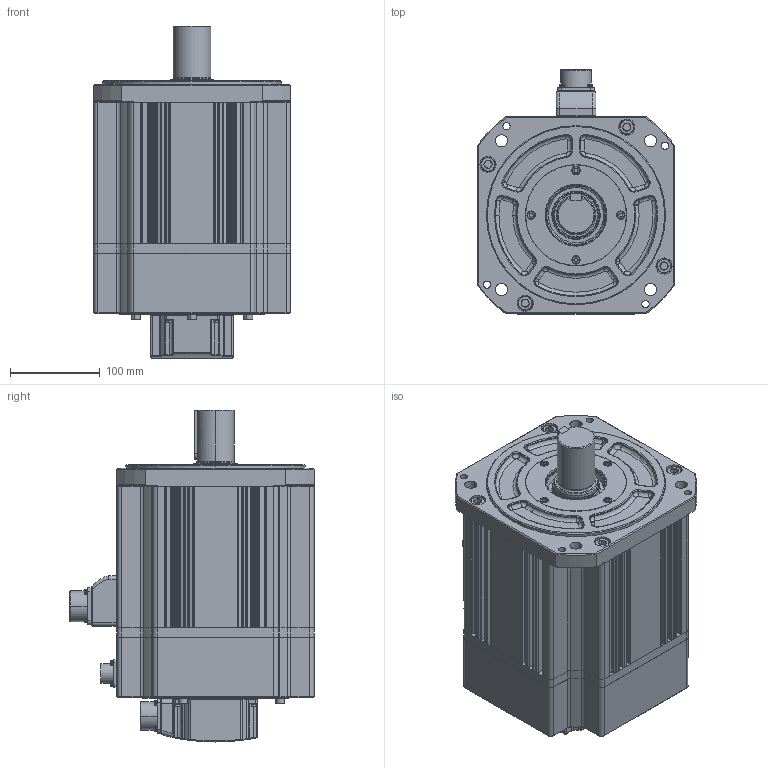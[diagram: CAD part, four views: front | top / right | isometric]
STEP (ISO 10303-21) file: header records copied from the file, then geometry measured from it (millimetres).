
FILE_DESCRIPTION (( 'STEP AP214' ), '1' );
FILE_NAME ('FM22GA007-1G04_Out Line(APM-FG75D_K3,FG60G_K3,FG44M_K3).STEP', '2019-07-11T01:23:39', ( '' ), ( '' ), 'SwSTEP 2.0', 'SolidWorks 2011', '' );
FILE_SCHEMA (( 'AUTOMOTIVE_DESIGN' ));
Length unit declared in the file: millimetre
Products named in the file (1): FM22GA007-1G04_Out Line(APM-FG75D_K3,FG60G_K3,FG44M_K3)
Bounding box: 220 x 272.5 x 370.7 mm (x, y, z)
Volume: 11306431.7 mm3; surface area: 833110.1 mm2
Topology: 76 solids, 76 shells, 2597 faces, 6418 edges, 4062 vertices
Faces by surface type: cylinder 1012, plane 905, cone 346, torus 183, bspline 151
Entity records: 115334 total; most frequent: CARTESIAN_POINT 23771, DIRECTION 13419, ORIENTED_EDGE 12672, EDGE_CURVE 6336, AXIS2_PLACEMENT_3D 5198, VERTEX_POINT 4062, VECTOR 3023, LINE 3023
